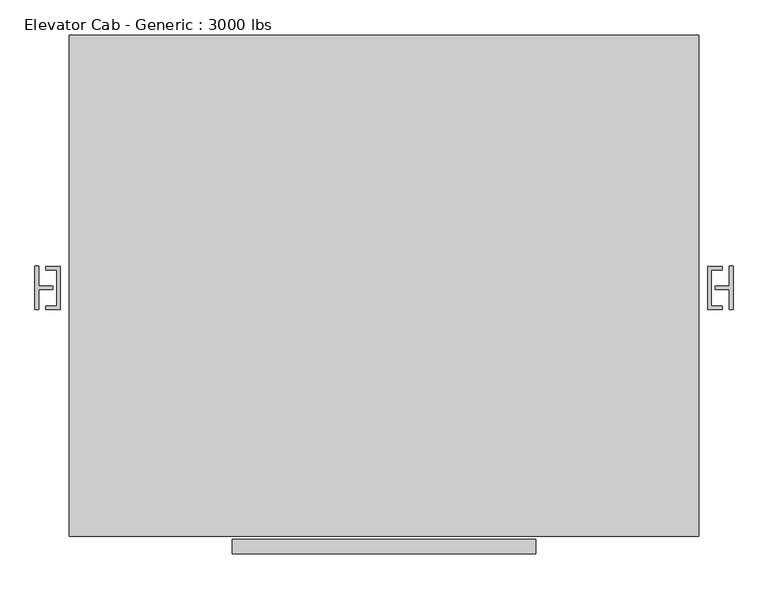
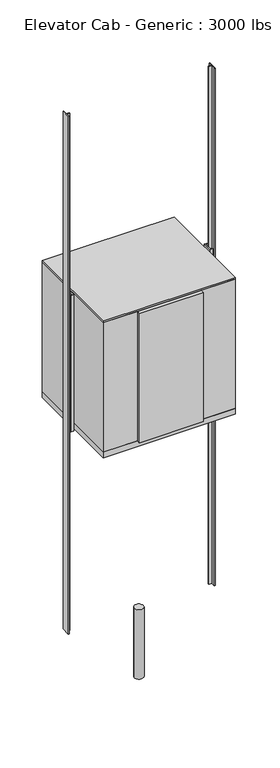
"""IFC4 building model written with IfcOpenShell, lengths in millimetres: proxy geometry, Elevator Cab - Generic : 3000 lbs."""

from ifc_helpers import new_model, si_unit, point, frame, frame_2d, origin, origin_with_axes, place, context, project, spatial, polyline, circle_curve, trimmed, segment, composite_curve, outline, extrude, source, transform, mapped, element, save


def elevator_cab_generic_3000_lbs_83545170(model_context):
    return source(origin(), model_context, "Body", "SweptSolid", [
        extrude(outline(composite_curve([segment(trimmed(circle_curve(frame_2d((7.4469965, 139.3468263)), 76.2), [point((-68.7530035, 139.3468263))], [point((83.6469965, 139.3468263))], False, "CARTESIAN"), True, "CONTINUOUS"), segment(trimmed(circle_curve(frame_2d((7.4469965, 139.3468263)), 76.2), [point((83.6469965, 139.3468263))], [point((-68.7530035, 139.3468263))], False, "CARTESIAN"), True, "CONTINUOUS")], self_intersect=False)), frame((0.0, 0.0, -1219.2), z_axis=(0.0, 0.0, 1.0), x_axis=(1.0, 0.0, 0.0)), (0.0, 0.0, 1.0), 1219.2),
        extrude(outline(polyline([(540.8469965, -749.6531737), (540.8469965, -800.4531737), (-525.9530035, -800.4531737), (-525.9530035, -749.6531737), (540.8469965, -749.6531737)])), frame((0.0, 0.0, 3657.6), z_axis=(0.0, 0.0, 1.0), x_axis=(1.0, 0.0, 0.0)), (0.0, 0.0, 1.0), 2286.0),
        extrude(outline(polyline([(1112.3469965, 1021.9968263), (1112.3469965, -738.5406737), (-1097.4530035, -738.5406737), (-1097.4530035, 1021.9968263), (1112.3469965, 1021.9968263)])), frame((0.0, 0.0, 5943.6), z_axis=(0.0, 0.0, 1.0), x_axis=(1.0, 0.0, 0.0)), (0.0, 0.0, 1.0), 25.4),
        extrude(outline(polyline([(1074.2469965, 971.1968263), (-1059.3530035, 971.1968263), (-1059.3530035, -705.2031737), (-525.9530035, -705.2031737), (-525.9530035, -738.5406737), (-1097.4530035, -738.5406737), (-1097.4530035, 1021.9968263), (1112.3469965, 1021.9968263), (1112.3469965, -738.5406737), (540.8469965, -738.5406737), (540.8469965, -705.2031737), (1074.2469965, -705.2031737), (1074.2469965, 971.1968263)])), frame((0.0, 0.0, 3657.6), z_axis=(0.0, 0.0, 1.0), x_axis=(1.0, 0.0, 0.0)), (0.0, 0.0, 1.0), 2286.0),
        extrude(outline(polyline([(1112.3469965, 1021.9968263), (1112.3469965, -738.5406737), (-1097.4530035, -738.5406737), (-1097.4530035, 1021.9968263), (1112.3469965, 1021.9968263)])), frame((0.0, 0.0, 3556.0), z_axis=(0.0, 0.0, 1.0), x_axis=(1.0, 0.0, 0.0)), (0.0, 0.0, 1.0), 101.6),
        extrude(outline(polyline([(-1129.2030035, 209.1968263), (-1129.2030035, 56.7968263), (-1180.0030035, 56.7968263), (-1180.0030035, 69.4968263), (-1141.9030035, 69.4968263), (-1141.9030035, 196.4968263), (-1180.0030035, 196.4968263), (-1180.0030035, 209.1968263), (-1129.2030035, 209.1968263)])), frame((0.0, 0.0, 3556.0), z_axis=(0.0, 0.0, 1.0), x_axis=(1.0, 0.0, 0.0)), (0.0, 0.0, 1.0), 2413.0),
        extrude(outline(polyline([(1144.0969965, 209.1968263), (1194.8969965, 209.1968263), (1194.8969965, 196.4968263), (1156.7969965, 196.4968263), (1156.7969965, 69.4968263), (1194.8969965, 69.4968263), (1194.8969965, 56.7968263), (1144.0969965, 56.7968263), (1144.0969965, 209.1968263)])), frame((0.0, 0.0, 3556.0), z_axis=(0.0, 0.0, 1.0), x_axis=(1.0, 0.0, 0.0)), (0.0, 0.0, 1.0), 2413.0),
        extrude(outline(polyline([(-1205.4030035, 209.1968263), (-1205.4030035, 139.3468263), (-1154.6030035, 139.3468263), (-1154.6030035, 126.6468263), (-1205.4030035, 126.6468263), (-1205.4030035, 56.7968263), (-1218.1030035, 56.7968263), (-1218.1030035, 209.1968263), (-1205.4030035, 209.1968263)])), origin_with_axes(), (0.0, 0.0, 1.0), 9144.0),
        extrude(outline(polyline([(1220.2969965, 209.1968263), (1232.9969965, 209.1968263), (1232.9969965, 56.7968263), (1220.2969965, 56.7968263), (1220.2969965, 126.6468263), (1169.4969965, 126.6468263), (1169.4969965, 139.3468263), (1220.2969965, 139.3468263), (1220.2969965, 209.1968263)])), origin_with_axes(), (0.0, 0.0, 1.0), 9144.0),
    ])


if __name__ == "__main__":
    model = new_model("IFC4")
    model_context = context("Model", 3, world=origin())
    ifc_project = project(units=[si_unit("LENGTHUNIT", "METRE", prefix="MILLI")], contexts=[model_context])
    site = spatial("IfcSite", under=ifc_project)
    building = spatial("IfcBuilding", under=site)
    placement = place(None, origin())
    elevator_cab_generic_3000_lbs_shape = elevator_cab_generic_3000_lbs_83545170(model_context)
    element("IfcBuildingElementProxy", 1, Name="Elevator Cab - Generic : 3000 lbs", ObjectType="Elevator Cab - Generic : 3000 lbs", at=placement, inside=building, context=model_context, shape_type="MappedRepresentation", body=[
        mapped(elevator_cab_generic_3000_lbs_shape, transform((0.0, 0.0, 0.0), x_axis=(1.0, 0.0, 0.0), y_axis=(0.0, 1.0, 0.0), z_axis=(0.0, 0.0, 1.0))),
    ])
    save(model, "model.ifc")
